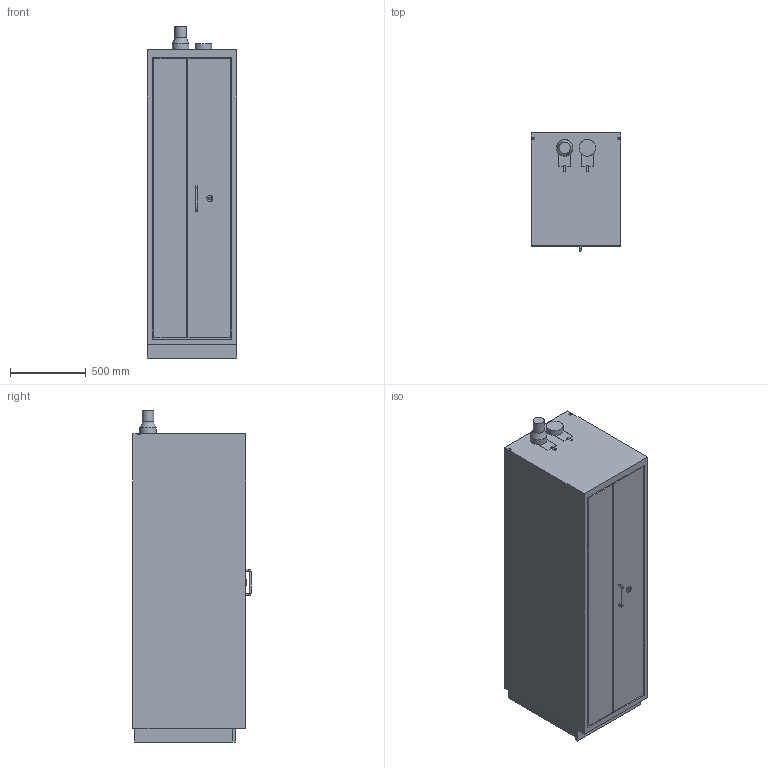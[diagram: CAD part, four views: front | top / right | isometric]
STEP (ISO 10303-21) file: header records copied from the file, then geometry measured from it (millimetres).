
FILE_DESCRIPTION(/* description */ ('Unknown'),/* implementation_level */ '2;1');
FILE_NAME(/* name */ 'Sicherheitsschrank Typ 90_D00106227',/* time_stamp */ '2020-05-18T08:12:45+02:00',/* author */ ('Unknown'),/* organization */ ('Unknown'),/* preprocessor_version */ 'ST-DEVELOPER v16.7',/* originating_system */ 'Solid Edge',/* authorisation */ 'Unknown');
FILE_SCHEMA (('AUTOMOTIVE_DESIGN {1 0 10303 214 3 1 1}'));
Length unit declared in the file: millimetre
Products named in the file (1): Sicherheitsschrank Typ 90_D00106227
Bounding box: 594 x 782 x 2195 mm (x, y, z)
Volume: 865202053 mm3; surface area: 7420794.2 mm2
Topology: 1 solids, 1 shells, 90 faces, 230 edges, 153 vertices
Faces by surface type: plane 73, cylinder 14, torus 2, cone 1
Full cylindrical faces by diameter (mm): 6.2 x2, 12 x3, 18 x1, 40 x1, 75 x1, 109.5 x2
Entity records: 3237 total; most frequent: CARTESIAN_POINT 449, DIRECTION 424, ORIENTED_EDGE 422, EDGE_CURVE 211, LINE 180, VECTOR 180, VERTEX_POINT 147, AXIS2_PLACEMENT_3D 122
